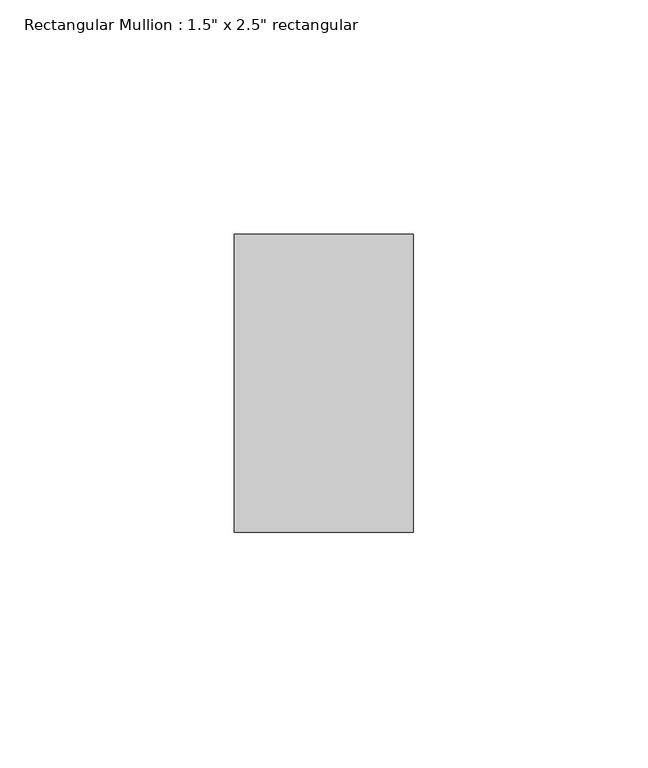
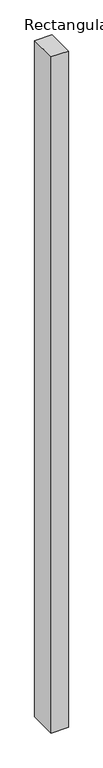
"""IFC4 building model written with IfcOpenShell, lengths in millimetres: member geometry."""

import ifcopenshell
import ifcopenshell.guid

model = None  # the IFC model being written
_history = None  # IfcOwnerHistory: only IFC2X3 demands one
_inside = {}  # id of a spatial element -> (the spatial element, [elements in it])
_under = {}  # id of a project, library or spatial element -> (it, [spatial elements below it])
_declared = {}  # id of a project -> (the project, [libraries it declares])
_typed = {}  # id of a type object -> (the type object, [elements of that type])
_made_of = {}  # id of a material, layer set ... -> (it, [elements and type objects made of it])


def new_model(schema):
    """Start an empty IFC model of exactly this schema.

    Asked for "IFC4X3", IfcOpenShell would pick the latest addendum, in which some entities
    have other attributes; the version numbers below select the first issue.
    IFC2X3 requires an IfcOwnerHistory on every rooted entity: one is made here for all.
    """
    global model, _history
    if schema == "IFC4X3":
        model = ifcopenshell.file(schema_version=(4, 3, 0, 0))
    else:
        model = ifcopenshell.file(schema=schema)
    _inside.clear()
    _under.clear()
    _declared.clear()
    _typed.clear()
    _made_of.clear()
    _history = None
    if model.schema == "IFC2X3":
        org = make("IfcOrganization", Name="unknown")
        user = make(
            "IfcPersonAndOrganization",
            ThePerson=make("IfcPerson", FamilyName="unknown"),
            TheOrganization=org,
        )
        app = make(
            "IfcApplication",
            ApplicationDeveloper=org,
            Version="unknown",
            ApplicationFullName="unknown",
            ApplicationIdentifier="unknown",
        )
        _history = make(
            "IfcOwnerHistory",
            OwningUser=user,
            OwningApplication=app,
            ChangeAction="ADDED",
            CreationDate=0,
        )
    return model


def make(cls, **values):
    """One entity of the class cls with the attributes given. An attribute that is None is left unset."""
    return model.create_entity(
        cls, **{name: value for name, value in values.items() if value is not None}
    )


def rooted(cls, **values):
    """An entity with a GlobalId (a new one), such as an element, a storey or a relation."""
    return make(cls, GlobalId=ifcopenshell.guid.new(), OwnerHistory=_history, **values)


def si_unit(unit_type, name, prefix=None):
    """IfcSIUnit, for example si_unit("LENGTHUNIT", "METRE", prefix="MILLI")."""
    return make("IfcSIUnit", UnitType=unit_type, Prefix=prefix, Name=name)


def assignment(units):
    """IfcUnitAssignment: the units of a project."""
    return None if units is None else make("IfcUnitAssignment", Units=units)


def point(xyz):
    """IfcCartesianPoint."""
    return None if xyz is None else make("IfcCartesianPoint", Coordinates=xyz)


def direction(xyz):
    """IfcDirection."""
    return None if xyz is None else make("IfcDirection", DirectionRatios=xyz)


def frame(location, z_axis=None, x_axis=None):
    """IfcAxis2Placement3D, a coordinate frame: its origin and axes. An axis left out is left unset."""
    return make(
        "IfcAxis2Placement3D",
        Location=point(location),
        Axis=direction(z_axis),
        RefDirection=direction(x_axis),
    )


def origin():
    """The frame at (0, 0, 0) with its axes left unset."""
    return frame((0.0, 0.0, 0.0))


def place(relative_to, where):
    """IfcLocalPlacement: puts the frame where relative to a parent placement (None: the world)."""
    return make(
        "IfcLocalPlacement", PlacementRelTo=relative_to, RelativePlacement=where
    )


def context(
    kind, dimensions, precision=None, world=None, true_north=None, identifier=None
):
    """IfcGeometricRepresentationContext, for example the 3D "Model" context."""
    return make(
        "IfcGeometricRepresentationContext",
        ContextIdentifier=identifier,
        ContextType=kind,
        CoordinateSpaceDimension=dimensions,
        Precision=precision,
        WorldCoordinateSystem=world,
        TrueNorth=true_north,
    )


def project(units=None, contexts=None):
    """IfcProject with its units and contexts."""
    return rooted(
        "IfcProject",
        Name="project",
        RepresentationContexts=contexts,
        UnitsInContext=assignment(units),
    )


def spatial(cls, under=None, at=None, **own):
    """A site, building, storey or space (cls), placed at a placement, below another one or the project."""
    s = rooted(cls, ObjectPlacement=at, **own)
    if under is not None:
        _under.setdefault(under.id(), (under, []))[1].append(s)
    return s


def polyline(points):
    """IfcPolyline through the points."""
    return make("IfcPolyline", Points=[point(p) for p in points])


def outline(outer, holes=None, kind="AREA"):
    """IfcArbitraryClosedProfileDef: a profile drawn as a closed curve; with holes, ...WithVoids."""
    if holes is None:
        return make("IfcArbitraryClosedProfileDef", ProfileType=kind, OuterCurve=outer)
    return make(
        "IfcArbitraryProfileDefWithVoids",
        ProfileType=kind,
        OuterCurve=outer,
        InnerCurves=holes,
    )


def extrude(swept, where, along, depth):
    """IfcExtrudedAreaSolid: the profile swept, set in the frame where, extruded along a direction by depth."""
    return make(
        "IfcExtrudedAreaSolid",
        SweptArea=swept,
        Position=where,
        ExtrudedDirection=direction(along),
        Depth=depth,
    )


def shape(context_of_items, identifier, shape_type, items):
    """IfcShapeRepresentation: the items that make up one representation, for example the "Body"."""
    return make(
        "IfcShapeRepresentation",
        ContextOfItems=context_of_items,
        RepresentationIdentifier=identifier,
        RepresentationType=shape_type,
        Items=items,
    )


def source(mapping_origin, context_of_items, identifier, shape_type, items):
    """IfcRepresentationMap: a shape defined once, which mapped items show again and again."""
    return make(
        "IfcRepresentationMap",
        MappingOrigin=mapping_origin,
        MappedRepresentation=shape(context_of_items, identifier, shape_type, items),
    )


def transform(
    local_origin,
    x_axis=None,
    y_axis=None,
    z_axis=None,
    scale=None,
    scale2=None,
    scale3=None,
    uniform=True,
):
    """IfcCartesianTransformationOperator3D, or its non-uniform kind. x_axis, y_axis, z_axis: its Axis1, 2, 3."""
    if uniform:
        return make(
            "IfcCartesianTransformationOperator3D",
            Axis1=direction(x_axis),
            Axis2=direction(y_axis),
            LocalOrigin=point(local_origin),
            Scale=scale,
            Axis3=direction(z_axis),
        )
    return make(
        "IfcCartesianTransformationOperator3DnonUniform",
        Axis1=direction(x_axis),
        Axis2=direction(y_axis),
        LocalOrigin=point(local_origin),
        Scale=scale,
        Axis3=direction(z_axis),
        Scale2=scale2,
        Scale3=scale3,
    )


def mapped(mapping_source, mapping_target):
    """IfcMappedItem: shows the shape of a source again, moved by a transform."""
    return make(
        "IfcMappedItem", MappingSource=mapping_source, MappingTarget=mapping_target
    )


def made_of(thing, what):
    """Note that an element or type object is made of a material, layer set ...; save() writes the relation."""
    if what is not None:
        _made_of.setdefault(what.id(), (what, []))[1].append(thing)
    return thing


def element(
    cls,
    number,
    at=None,
    inside=None,
    cuts=None,
    type_object=None,
    material=None,
    context=None,
    identifier="Body",
    shape_type=None,
    held_by="IfcProductDefinitionShape",
    body=None,
    shapes=None,
    **own,
):
    """One element of the class cls, such as IfcWall. Its Tag is "e" and its number.

    at: its placement. inside: the storey or other place that contains it. cuts: it is an
    opening in that element (IfcRelVoidsElement). A single representation is given by context,
    identifier, shape_type and body (its items); several are given by shapes. held_by: the class
    of the entity that holds the representations. save() writes the other relations.
    """
    e = rooted(cls, Tag="e%d" % number, ObjectPlacement=at, **own)
    if body is not None:
        shapes = [shape(context, identifier, shape_type, body)]
    if shapes is not None:
        e.Representation = make(held_by, Representations=shapes)
    if inside is not None:
        _inside.setdefault(inside.id(), (inside, []))[1].append(e)
    if cuts is not None:
        rooted(
            "IfcRelVoidsElement", RelatingBuildingElement=cuts, RelatedOpeningElement=e
        )
    if type_object is not None:
        _typed.setdefault(type_object.id(), (type_object, []))[1].append(e)
    return made_of(e, material)


def aggregate(whole, parts):
    """IfcRelAggregates: a whole, such as a stair, and the parts it consists of."""
    return rooted("IfcRelAggregates", RelatingObject=whole, RelatedObjects=parts)


def save(model, path):
    """Write the relations noted so far, then the file.

    IfcRelAggregates (storeys below a building ...), IfcRelContainedInSpatialStructure (elements
    in a storey), IfcRelDefinesByType, IfcRelAssociatesMaterial and IfcRelDeclares: one each for
    every whole, place, type object, material and project.
    """
    for whole, parts in _under.values():
        aggregate(whole, parts)
    for where, things in _inside.values():
        rooted(
            "IfcRelContainedInSpatialStructure",
            RelatedElements=things,
            RelatingStructure=where,
        )
    for kind, things in _typed.values():
        rooted("IfcRelDefinesByType", RelatedObjects=things, RelatingType=kind)
    for what, things in _made_of.values():
        rooted("IfcRelAssociatesMaterial", RelatedObjects=things, RelatingMaterial=what)
    for by, libraries in _declared.values():
        rooted("IfcRelDeclares", RelatingContext=by, RelatedDefinitions=libraries)
    model.write(path)


def member_40da84cb(model_context):
    return source(origin(), model_context, "Body", "SweptSolid", [
        extrude(outline(polyline([(0.0, 31.75), (0.0, -31.75), (-38.1, -31.75), (-38.1, 31.75), (0.0, 31.75)])), frame((0.0, 0.0, -1587.5), z_axis=(0.0, 0.0, 1.0), x_axis=(1.0, 0.0, 0.0)), (0.0, 0.0, 1.0), 1587.5),
    ])


if __name__ == "__main__":
    model = new_model("IFC4")
    model_context = context("Model", 3, world=origin())
    ifc_project = project(units=[si_unit("LENGTHUNIT", "METRE", prefix="MILLI")], contexts=[model_context])
    site = spatial("IfcSite", under=ifc_project)
    building = spatial("IfcBuilding", under=site)
    placement = place(None, origin())
    member_shape = member_40da84cb(model_context)
    element("IfcMember", 1, ObjectType="Rectangular Mullion : 1.5\" x 2.5\" rectangular", at=placement, inside=building, context=model_context, shape_type="MappedRepresentation", body=[
        mapped(member_shape, transform((0.0, 0.0, 0.0), x_axis=(1.0, 0.0, 0.0), y_axis=(0.0, 1.0, 0.0), z_axis=(0.0, 0.0, 1.0))),
    ])
    save(model, "model.ifc")
